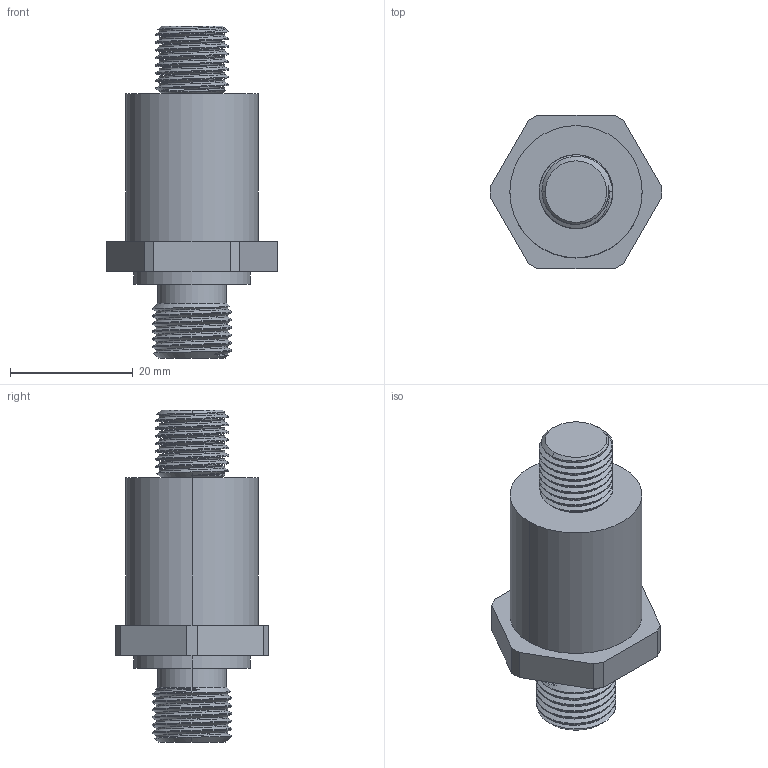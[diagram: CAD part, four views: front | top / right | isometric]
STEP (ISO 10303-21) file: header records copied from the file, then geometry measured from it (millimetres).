
FILE_DESCRIPTION (( 'STEP AP214' ), '1' );
FILE_NAME ('BPT1A58.STEP', '2025-04-24T02:23:59', ( '' ), ( '' ), 'SwSTEP 2.0', 'SolidWorks 2022', '' );
FILE_SCHEMA (( 'AUTOMOTIVE_DESIGN' ));
Length unit declared in the file: millimetre
Products named in the file (1): BPT1A58
Bounding box: 27.87 x 25 x 54 mm (x, y, z)
Volume: 13998 mm3; surface area: 5047.8 mm2
Topology: 2 solids, 2 shells, 111 faces, 292 edges, 190 vertices
Faces by surface type: cylinder 60, plane 25, cone 13, bspline 13
Entity records: 9958 total; most frequent: CARTESIAN_POINT 7609, ORIENTED_EDGE 582, DIRECTION 363, EDGE_CURVE 291, VERTEX_POINT 190, AXIS2_PLACEMENT_3D 127, EDGE_LOOP 115, ADVANCED_FACE 110
